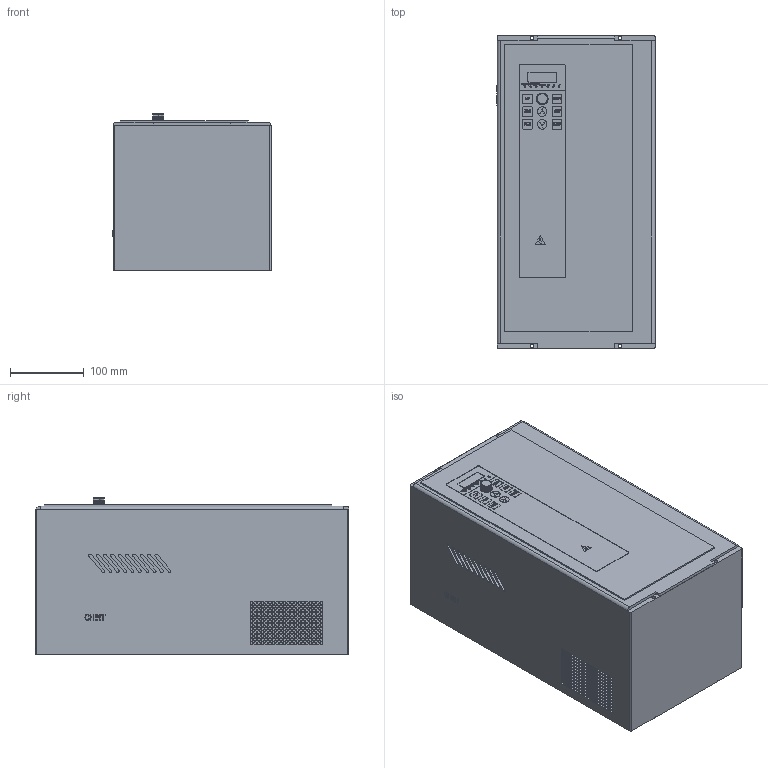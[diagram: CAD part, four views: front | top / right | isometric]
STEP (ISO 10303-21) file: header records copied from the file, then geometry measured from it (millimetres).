
FILE_DESCRIPTION(/* description */ (''),/* implementation_level */ '2;1');
FILE_NAME(/* name */ 'D:\2 ДОГОВОР ЧИНТ\Выслать\CHINT 10.03.2019\NVF2G\NVF2G-15 TS4(18.5 PS4) NVF2G-18.5 TS4(22 PS4).stp',/* time_stamp */ '2019-03-11T18:42:22+03:00',/* author */ ('RSagdiev'),/* organization */ (''),/* preprocessor_version */ 'ST-DEVELOPER v16.5',/* originating_system */ 'Autodesk Inventor 2017',/* authorisation */ '');
FILE_SCHEMA (('AUTOMOTIVE_DESIGN { 1 0 10303 214 3 1 1 }'));
Length unit declared in the file: millimetre
Products named in the file (1): NVF2G-15 TS4(18.5 PS4) NVF2G-18.5 TS4(22 PS4)
Bounding box: 215.1 x 426 x 213 mm (x, y, z)
Volume: 18508155.6 mm3; surface area: 831606.8 mm2
Topology: 14 solids, 14 shells, 1635 faces, 3840 edges, 2560 vertices
Faces by surface type: plane 1038, cylinder 314, bspline 193, cone 90
Full cylindrical faces by diameter (mm): 2 x7, 4 x240, 5 x4, 13 x3
Entity records: 47124 total; most frequent: CARTESIAN_POINT 11313, ORIENTED_EDGE 7172, DIRECTION 6714, EDGE_CURVE 3586, VERTEX_POINT 2560, AXIS2_PLACEMENT_3D 2251, EDGE_LOOP 2224, LINE 2212
